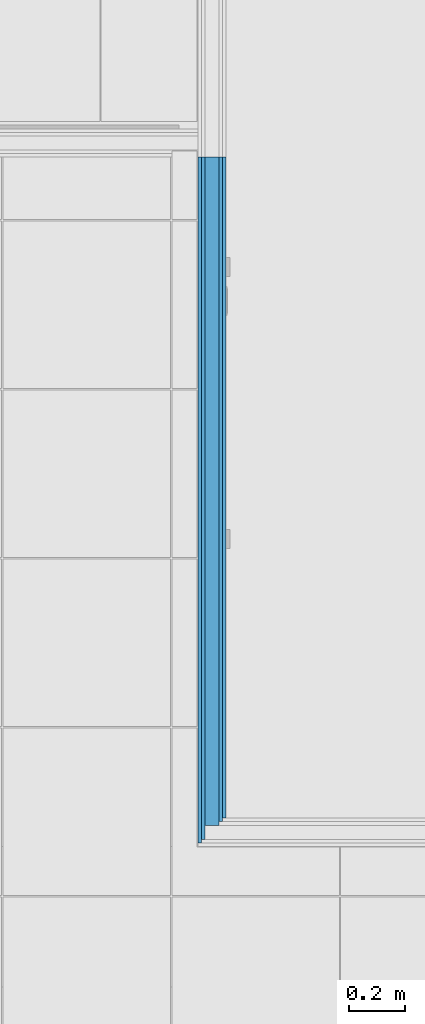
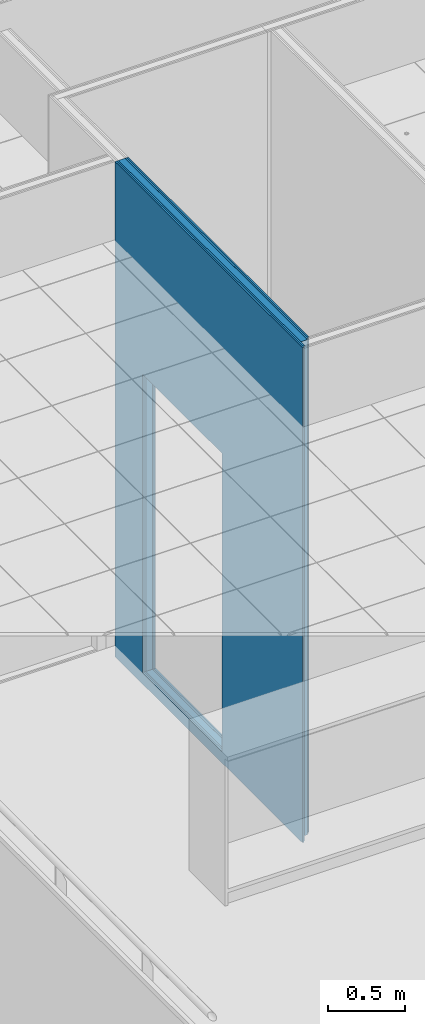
# One storey, part 22 of 321: 5 building element parts, 1 opening, 1 element without a shape of its own.
"""IFC2X3 building model written with IfcOpenShell, lengths in millimetres."""

from ifc_helpers import new_model, entity, si_unit, converted_unit, derived_unit, money_unit, direction, frame, origin_with_axes, place, context, subcontext, project, spatial, faceted_brep, material, type_object, element, aggregate, save


model = new_model("IFC2X3")

# Units and contexts
model_context = context("Model", 3, precision=0.01, world=origin_with_axes(), true_north=direction((0.0, 1.0)))
plan_context = context("Plan", 3, precision=0.01, world=origin_with_axes(), true_north=direction((0.0, 1.0)))
body_context = subcontext(model_context, "Body", "Model", "MODEL_VIEW")
ifc_project = project(units=[si_unit("LENGTHUNIT", "METRE", prefix="MILLI"), si_unit("AREAUNIT", "SQUARE_METRE"), si_unit("VOLUMEUNIT", "CUBIC_METRE"), converted_unit("PLANEANGLEUNIT", "DEGREE", entity("IfcPlaneAngleMeasure", 0.0174532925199), si_unit("PLANEANGLEUNIT", "RADIAN"), dimensions=[0, 0, 0, 0, 0, 0, 0]), money_unit("EUR"), converted_unit("TIMEUNIT", "Year", entity("IfcTimeMeasure", 31556926.0), si_unit("TIMEUNIT", "SECOND"), dimensions=[0, 0, 1, 0, 0, 0, 0]), si_unit("MASSUNIT", "GRAM", prefix="KILO"), si_unit("THERMODYNAMICTEMPERATUREUNIT", "DEGREE_CELSIUS"), si_unit("LUMINOUSINTENSITYUNIT", "LUMEN"), si_unit("ENERGYUNIT", "JOULE", prefix="MEGA"), derived_unit("THERMALCONDUCTANCEUNIT", [(si_unit("POWERUNIT", "WATT"), 1), (si_unit("LENGTHUNIT", "METRE"), -1), (si_unit("THERMODYNAMICTEMPERATUREUNIT", "KELVIN"), -1)]), derived_unit("SPECIFICHEATCAPACITYUNIT", [(si_unit("ENERGYUNIT", "JOULE"), 1), (si_unit("MASSUNIT", "GRAM", prefix="KILO"), -1), (si_unit("THERMODYNAMICTEMPERATUREUNIT", "KELVIN"), -1)]), derived_unit("MASSDENSITYUNIT", [(si_unit("MASSUNIT", "GRAM", prefix="KILO"), 1), (si_unit("VOLUMEUNIT", "CUBIC_METRE"), -1)])], contexts=[model_context, plan_context])

# Site, building, storey
site_placement = place(None, origin_with_axes())
site = spatial("IfcSite", under=ifc_project, at=site_placement, Name="Fortuinstraat Woensdrecht", CompositionType="ELEMENT")
building_placement = place(site_placement, origin_with_axes())
building = spatial("IfcBuilding", under=site, at=building_placement, Name="IKC Fortuna", CompositionType="ELEMENT")
storey_placement = place(building_placement, frame((0.0, 0.0, 4000.0), z_axis=(0.0, 0.0, 1.0), x_axis=(1.0, 0.0, 0.0)))
storey = spatial("IfcBuildingStorey", under=building, at=storey_placement, Name="01 eerste verdieping", CompositionType="ELEMENT", Elevation=4000.0)

# Wall, opening, building element parts
wall_type = type_object("IfcWallType", Name="MS100 2.50.2A 100", PredefinedType="NOTDEFINED")
wall_placement = place(storey_placement, frame((25615.4349765, 13666.7420377, -90.0), z_axis=(0.0, 0.0, 1.0), x_axis=(0.0, 1.0, 0.0)))
wall = element("IfcWall", 1, at=wall_placement, inside=storey, type_object=wall_type, Name="22_Wand_Binnenwand")
opening_placement = place(wall_placement, frame((1525.0, 0.0, 90.0), z_axis=(0.0, 0.0, 1.0), x_axis=(1.0, 0.0, 0.0)))
element("IfcOpeningElement", 2, at=opening_placement, cuts=wall, Name="32_Deur_h.01a", context=body_context, shape_type="Brep", body=[
    faceted_brep([(-517.0, 200.0, 2367.0), (-517.0, 200.0, 0.0), (-517.0, -100.0, 0.0), (-517.0, -100.0, 2367.0), (517.0, 200.0, 2367.0), (517.0, 200.0, 0.0), (517.0, -100.0, 0.0), (517.0, -100.0, 2367.0)], [[[0, 1, 2, 3]], [[0, 4, 5, 1]], [[1, 5, 6, 2]], [[3, 2, 6, 7]], [[4, 0, 3, 7]], [[5, 4, 7, 6]]]),
])
ifc_material_1 = material(Name="Gipsplaat")
building_element_part_1_placement = place(wall_placement, origin_with_axes())
building_element_part_1 = element("IfcBuildingElementPart", 3, at=building_element_part_1_placement, material=ifc_material_1, Name="Gipsplaat", context=body_context, shape_type="Brep", body=[
    faceted_brep([(2398.05459057, 50.0, 0.0), (-37.5, 50.0, 0.0), (-37.5, 50.0, 3930.0), (2398.05459057, 50.0, 3930.0), (1008.0, 50.0, 90.0), (2042.0, 50.0, 90.0), (2042.0, 50.0, 2457.0), (1008.0, 50.0, 2457.0), (2398.05459057, 37.5, 0.0), (-37.5, 37.5, 0.0), (-37.5, 37.5, 3930.0), (2398.05459057, 37.5, 3930.0), (1008.0, 37.5, 90.0), (2042.0, 37.5, 90.0), (2042.0, 37.5, 2457.0), (1008.0, 37.5, 2457.0)], [[[0, 1, 2, 3], [4, 5, 6, 7]], [[8, 9, 1, 0]], [[2, 1, 9, 10]], [[3, 2, 10, 11]], [[8, 0, 3, 11]], [[12, 13, 5, 4]], [[13, 14, 6, 5]], [[14, 15, 7, 6]], [[15, 12, 4, 7]], [[11, 10, 9, 8], [12, 15, 14, 13]]]),
])
building_element_part_2_placement = place(wall_placement, origin_with_axes())
building_element_part_2 = element("IfcBuildingElementPart", 4, at=building_element_part_2_placement, material=ifc_material_1, Name="Gipsplaat", context=body_context, shape_type="Brep", body=[
    faceted_brep([(2398.05459057, 37.5, 0.0), (-25.0, 37.5, 0.0), (-25.0, 37.5, 3930.0), (2398.05459057, 37.5, 3930.0), (1008.0, 37.5, 90.0), (2042.0, 37.5, 90.0), (2042.0, 37.5, 2457.0), (1008.0, 37.5, 2457.0), (2398.05459057, 25.0, 0.0), (-25.0, 25.0, 0.0), (-25.0, 25.0, 3930.0), (2398.05459057, 25.0, 3930.0), (1008.0, 25.0, 90.0), (2042.0, 25.0, 90.0), (2042.0, 25.0, 2457.0), (1008.0, 25.0, 2457.0)], [[[0, 1, 2, 3], [4, 5, 6, 7]], [[8, 9, 1, 0]], [[2, 1, 9, 10]], [[3, 2, 10, 11]], [[8, 0, 3, 11]], [[12, 13, 5, 4]], [[13, 14, 6, 5]], [[14, 15, 7, 6]], [[15, 12, 4, 7]], [[11, 10, 9, 8], [12, 15, 14, 13]]]),
])
ifc_material_2 = material(Name="Isolatie - Steenwol LSW")
building_element_part_3_placement = place(wall_placement, origin_with_axes())
building_element_part_3 = element("IfcBuildingElementPart", 5, at=building_element_part_3_placement, material=ifc_material_2, Name="Isolatie - Steenwol LSW", context=body_context, shape_type="Brep", body=[
    faceted_brep([(2398.05459057, 25.0, 0.0), (25.0, 25.0, 0.0), (25.0, 25.0, 3930.0), (2398.05459057, 25.0, 3930.0), (1008.0, 25.0, 90.0), (2042.0, 25.0, 90.0), (2042.0, 25.0, 2457.0), (1008.0, 25.0, 2457.0), (2398.05459057, -25.0, 0.0), (25.0, -25.0, 0.0), (25.0, -25.0, 3930.0), (2398.05459057, -25.0, 3930.0), (1008.0, -25.0, 90.0), (2042.0, -25.0, 90.0), (2042.0, -25.0, 2457.0), (1008.0, -25.0, 2457.0)], [[[0, 1, 2, 3], [4, 5, 6, 7]], [[8, 9, 1, 0]], [[2, 1, 9, 10]], [[3, 2, 10, 11]], [[8, 0, 3, 11]], [[12, 13, 5, 4]], [[13, 14, 6, 5]], [[14, 15, 7, 6]], [[15, 12, 4, 7]], [[11, 10, 9, 8], [12, 15, 14, 13]]]),
])
building_element_part_4_placement = place(wall_placement, origin_with_axes())
building_element_part_4 = element("IfcBuildingElementPart", 6, at=building_element_part_4_placement, material=ifc_material_1, Name="Gipsplaat", context=body_context, shape_type="Brep", body=[
    faceted_brep([(2398.05459057, -25.0, 0.0), (37.5, -25.0, 0.0), (37.5, -25.0, 3930.0), (2398.05459057, -25.0, 3930.0), (1008.0, -25.0, 90.0), (2042.0, -25.0, 90.0), (2042.0, -25.0, 2457.0), (1008.0, -25.0, 2457.0), (2398.05459057, -37.5, 0.0), (37.5, -37.5, 0.0), (37.5, -37.5, 3930.0), (2398.05459057, -37.5, 3930.0), (1008.0, -37.5, 90.0), (2042.0, -37.5, 90.0), (2042.0, -37.5, 2457.0), (1008.0, -37.5, 2457.0)], [[[0, 1, 2, 3], [4, 5, 6, 7]], [[8, 9, 1, 0]], [[2, 1, 9, 10]], [[3, 2, 10, 11]], [[8, 0, 3, 11]], [[12, 13, 5, 4]], [[13, 14, 6, 5]], [[14, 15, 7, 6]], [[15, 12, 4, 7]], [[11, 10, 9, 8], [12, 15, 14, 13]]]),
])
building_element_part_5_placement = place(wall_placement, origin_with_axes())
building_element_part_5 = element("IfcBuildingElementPart", 7, at=building_element_part_5_placement, material=ifc_material_1, Name="Gipsplaat", context=body_context, shape_type="Brep", body=[
    faceted_brep([(2398.05459057, -37.5, 0.0), (50.0, -37.5, 0.0), (50.0, -37.5, 3930.0), (2398.05459057, -37.5, 3930.0), (1008.0, -37.5, 90.0), (2042.0, -37.5, 90.0), (2042.0, -37.5, 2457.0), (1008.0, -37.5, 2457.0), (2398.05459057, -50.0, 0.0), (50.0, -50.0, 0.0), (50.0, -50.0, 3930.0), (2398.05459057, -50.0, 3930.0), (1008.0, -50.0, 90.0), (2042.0, -50.0, 90.0), (2042.0, -50.0, 2457.0), (1008.0, -50.0, 2457.0)], [[[0, 1, 2, 3], [4, 5, 6, 7]], [[8, 9, 1, 0]], [[2, 1, 9, 10]], [[3, 2, 10, 11]], [[8, 0, 3, 11]], [[12, 13, 5, 4]], [[13, 14, 6, 5]], [[14, 15, 7, 6]], [[15, 12, 4, 7]], [[11, 10, 9, 8], [12, 15, 14, 13]]]),
])
aggregate(wall, [building_element_part_1, building_element_part_2, building_element_part_3, building_element_part_4, building_element_part_5])

save(model, "model.ifc")
